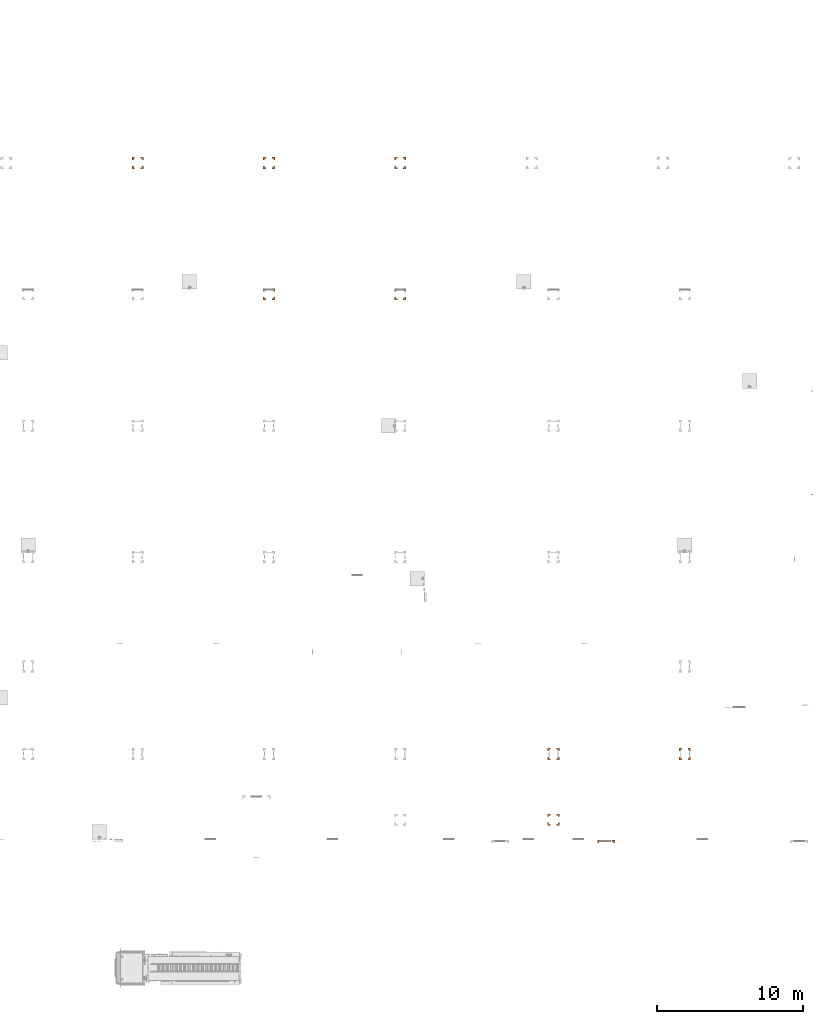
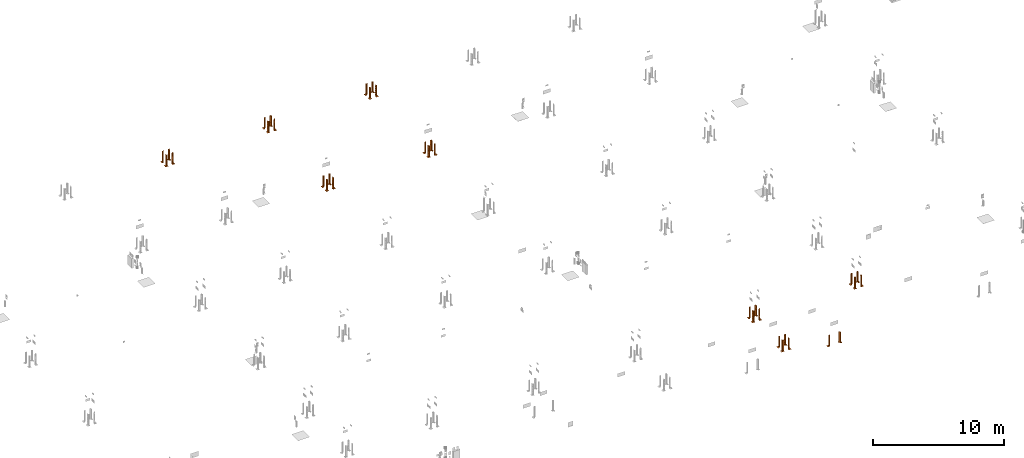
# One storey, part 16 of 119: 34 proxies.
"""IFC2X3 building model written with IfcOpenShell, lengths in metres."""

from ifc_helpers import new_model, entity, si_unit, converted_unit, derived_unit, direction, frame, origin, place, context, subcontext, project, spatial, faceted_brep, source, transform, mapped, material, material_list, type_object, type_shapes, element, save


model = new_model("IFC2X3")

# Units and contexts
model_context = context("Model", 3, precision=1e-05, world=origin(), true_north=direction((6.12303176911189e-17, 1.0)))
body_context = subcontext(model_context, "Body", "Model", "MODEL_VIEW")
ifc_project = project(units=[si_unit("LENGTHUNIT", "METRE"), si_unit("AREAUNIT", "SQUARE_METRE"), si_unit("VOLUMEUNIT", "CUBIC_METRE"), converted_unit("PLANEANGLEUNIT", "DEGREE", entity("IfcRatioMeasure", 0.0174532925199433), si_unit("PLANEANGLEUNIT", "RADIAN"), dimensions=[0, 0, 0, 0, 0, 0, 0]), si_unit("MASSUNIT", "GRAM", prefix="KILO"), derived_unit("MASSDENSITYUNIT", [(si_unit("MASSUNIT", "GRAM", prefix="KILO"), 1), (si_unit("LENGTHUNIT", "METRE"), -3)]), derived_unit("MOMENTOFINERTIAUNIT", [(si_unit("LENGTHUNIT", "METRE"), 4)]), si_unit("TIMEUNIT", "SECOND"), si_unit("FREQUENCYUNIT", "HERTZ"), si_unit("THERMODYNAMICTEMPERATUREUNIT", "DEGREE_CELSIUS"), derived_unit("THERMALTRANSMITTANCEUNIT", [(si_unit("MASSUNIT", "GRAM", prefix="KILO"), 1), (si_unit("THERMODYNAMICTEMPERATUREUNIT", "KELVIN"), -1), (si_unit("TIMEUNIT", "SECOND"), -3)]), derived_unit("VOLUMETRICFLOWRATEUNIT", [(si_unit("LENGTHUNIT", "METRE"), 3), (si_unit("TIMEUNIT", "SECOND"), -1)]), si_unit("ELECTRICCURRENTUNIT", "AMPERE"), si_unit("ELECTRICVOLTAGEUNIT", "VOLT"), si_unit("POWERUNIT", "WATT"), si_unit("FORCEUNIT", "NEWTON", prefix="KILO"), si_unit("ILLUMINANCEUNIT", "LUX"), si_unit("LUMINOUSFLUXUNIT", "LUMEN"), si_unit("LUMINOUSINTENSITYUNIT", "CANDELA"), derived_unit("USERDEFINED", [(si_unit("MASSUNIT", "GRAM", prefix="KILO"), -1), (si_unit("LENGTHUNIT", "METRE"), -2), (si_unit("TIMEUNIT", "SECOND"), 3), (si_unit("LUMINOUSFLUXUNIT", "LUMEN"), 1)]), derived_unit("LINEARVELOCITYUNIT", [(si_unit("LENGTHUNIT", "METRE"), 1), (si_unit("TIMEUNIT", "SECOND"), -1)]), si_unit("PRESSUREUNIT", "PASCAL"), derived_unit("USERDEFINED", [(si_unit("LENGTHUNIT", "METRE"), -2), (si_unit("MASSUNIT", "GRAM", prefix="KILO"), 1), (si_unit("TIMEUNIT", "SECOND"), -2)]), derived_unit("LINEARFORCEUNIT", [(si_unit("MASSUNIT", "GRAM", prefix="KILO"), 1), (si_unit("LENGTHUNIT", "METRE"), 1), (si_unit("TIMEUNIT", "SECOND"), -2), (si_unit("LENGTHUNIT", "METRE"), -1)]), derived_unit("PLANARFORCEUNIT", [(si_unit("MASSUNIT", "GRAM", prefix="KILO"), 1), (si_unit("LENGTHUNIT", "METRE"), 1), (si_unit("TIMEUNIT", "SECOND"), -2), (si_unit("LENGTHUNIT", "METRE"), -2)])], contexts=[model_context])

# Site, building, storey
site_placement = place(None, origin())
site = spatial("IfcSite", under=ifc_project, at=site_placement, Name="Default", CompositionType="ELEMENT")
building_placement = place(site_placement, origin())
building = spatial("IfcBuilding", under=site, at=building_placement, CompositionType="ELEMENT")
storey_placement = place(building_placement, origin())
storey = spatial("IfcBuildingStorey", under=building, at=storey_placement, Name="PAV. 01 - TÉRREO", CompositionType="ELEMENT", Elevation=0.0)

# Proxies
ifc_material_1 = material(Name="Plastico Amarelo")
ifc_material_2 = material(Name="Plastico Preto")
ifc_material_3 = material(Name="O_01_amarelo")
ifc_material_4 = material(Name="O_01_Preto")
ifc_material_list_1 = material_list([ifc_material_1, ifc_material_2, ifc_material_3, ifc_material_4])
ifc_material_list_2 = material_list([ifc_material_3, ifc_material_4, ifc_material_1])
building_element_proxy_type = type_object("IfcBuildingElementProxyType", Name="Indicação de Obstáculos:Indicador - O01 - Amarelo (ambiente interno)", PredefinedType="NOTDEFINED", material=ifc_material_list_2)
shared_shape = source(origin(), body_context, "Body", "Brep", [
    faceted_brep([(0.1, -0.0499999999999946, 0.000999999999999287), (0.0499999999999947, -0.1, 0.000999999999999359), (0.1, -0.1, 0.000999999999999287), (0.1, -0.0499999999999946, 0.0), (0.1, -0.1, 0.0), (0.0499999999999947, -0.1, 0.0)], [[[0, 1, 2]], [[3, 4, 5]], [[0, 2, 4, 3]], [[1, 0, 3, 5]], [[2, 1, 5, 4]]]),
    faceted_brep([(0.100000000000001, 0.0, 0.000999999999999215), (0.0, -0.1, 0.000999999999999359), (0.049999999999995, -0.1, 0.000999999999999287), (0.100000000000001, -0.0499999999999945, 0.000999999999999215), (0.100000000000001, 0.0, 0.0), (0.100000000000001, -0.0499999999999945, 0.0), (0.049999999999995, -0.1, 0.0), (0.0, -0.1, 0.0)], [[[0, 1, 2, 3]], [[4, 5, 6, 7]], [[0, 3, 5, 4]], [[1, 0, 4, 7]], [[3, 2, 6, 5]], [[2, 1, 7, 6]]]),
    faceted_brep([(0.049999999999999, 0.0, 0.000999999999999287), (-0.0500000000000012, -0.0999999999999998, 0.000999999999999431), (0.0, -0.1, 0.000999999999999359), (0.0999999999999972, 0.0, 0.000999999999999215), (0.049999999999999, 0.0, 0.0), (0.0999999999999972, 0.0, 0.0), (0.0, -0.1, 0.0), (-0.0500000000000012, -0.0999999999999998, 0.0)], [[[0, 1, 2, 3]], [[4, 5, 6, 7]], [[1, 0, 4, 7]], [[3, 2, 6, 5]], [[2, 1, 7, 6]], [[0, 3, 5, 4]]]),
    faceted_brep([(-0.0999999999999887, -0.0999999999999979, 0.000999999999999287), (-0.0499999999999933, -0.0999999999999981, 0.000999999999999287), (0.0499999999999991, 0.0, 0.000999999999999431), (0.0, 0.0, 0.000999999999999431), (-0.0999999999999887, -0.0999999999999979, 0.0), (0.0, 0.0, 0.0), (0.049999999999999, 0.0, 0.0), (-0.0499999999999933, -0.0999999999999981, 0.0)], [[[0, 1, 2, 3]], [[4, 5, 6, 7]], [[0, 3, 5, 4]], [[2, 1, 7, 6]], [[3, 2, 6, 5]], [[1, 0, 4, 7]]]),
    faceted_brep([(0.0, 0.0500000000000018, 0.000999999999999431), (-0.0999999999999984, -0.0500000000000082, 0.000999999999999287), (-0.099999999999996, -0.100000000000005, 0.000999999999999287), (0.0, 0.0, 0.000999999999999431), (0.0, 0.0500000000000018, 0.0), (0.0, 0.0, 0.0), (-0.099999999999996, -0.100000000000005, 0.0), (-0.0999999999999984, -0.0500000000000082, 0.0)], [[[0, 1, 2, 3]], [[4, 5, 6, 7]], [[0, 3, 5, 4]], [[1, 0, 4, 7]], [[2, 1, 7, 6]], [[3, 2, 6, 5]]]),
    faceted_brep([(-0.0999999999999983, 0.0499999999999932, 0.000999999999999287), (-0.0499999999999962, 0.1, 0.000999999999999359), (-0.100000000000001, 0.1, 0.000999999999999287), (-0.0999999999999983, 0.0499999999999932, 0.0), (-0.100000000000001, 0.1, 0.0), (-0.0499999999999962, 0.1, 0.0)], [[[0, 1, 2]], [[3, 4, 5]], [[0, 2, 4, 3]], [[1, 0, 3, 5]], [[2, 1, 5, 4]]]),
    faceted_brep([(-0.0999999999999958, 0.0, 0.000999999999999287), (0.0, 0.1, 0.000999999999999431), (-0.0499999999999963, 0.1, 0.000999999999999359), (-0.0999999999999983, 0.0499999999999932, 0.000999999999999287), (-0.0999999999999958, 0.0, 0.0), (-0.0999999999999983, 0.0499999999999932, 0.0), (-0.0499999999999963, 0.1, 0.0), (0.0, 0.1, 0.0)], [[[0, 1, 2, 3]], [[4, 5, 6, 7]], [[0, 3, 5, 4]], [[1, 0, 4, 7]], [[3, 2, 6, 5]], [[2, 1, 7, 6]]]),
    faceted_brep([(0.0, 0.050000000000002, 0.000999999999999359), (0.0, 0.1, 0.000999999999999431), (-0.0999999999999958, 0.0, 0.000999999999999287), (-0.0999999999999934, -0.0500000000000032, 0.000999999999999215), (0.0, 0.0500000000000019, 0.0), (-0.0999999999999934, -0.0500000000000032, 0.0), (-0.0999999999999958, 0.0, 0.0), (0.0, 0.1, 0.0)], [[[0, 1, 2, 3]], [[4, 5, 6, 7]], [[1, 0, 4, 7]], [[2, 1, 7, 6]], [[0, 3, 5, 4]], [[3, 2, 6, 5]]]),
    faceted_brep([(0.00200000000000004, 0.1, 1.0), (0.002, 0.00199999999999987, 0.902000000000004), (0.002, 0.00199999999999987, 0.802000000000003), (0.00200000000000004, 0.1, 0.900000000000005), (0.0, 0.1, 0.900000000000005), (0.0, 0.0, 0.800000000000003), (0.0, 0.0, 0.900000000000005), (0.0, 0.1, 1.0)], [[[0, 1, 2, 3]], [[4, 5, 6, 7]], [[4, 3, 2, 5]], [[1, 6, 5, 2]], [[6, 1, 0, 7]], [[3, 4, 7, 0]]]),
    faceted_brep([(0.00200000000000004, 0.1, 0.800000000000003), (0.002, 0.00199999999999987, 0.702000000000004), (0.002, 0.00199999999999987, 0.602000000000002), (0.00200000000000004, 0.1, 0.700000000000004), (0.0, 0.1, 0.700000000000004), (0.0, 0.0, 0.600000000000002), (0.0, 0.0, 0.700000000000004), (0.0, 0.1, 0.800000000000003)], [[[0, 1, 2, 3]], [[4, 5, 6, 7]], [[4, 3, 2, 5]], [[1, 6, 5, 2]], [[6, 1, 0, 7]], [[3, 4, 7, 0]]]),
    faceted_brep([(0.00200000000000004, 0.1, 0.600000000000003), (0.002, 0.00199999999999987, 0.502000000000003), (0.002, 0.00199999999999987, 0.402000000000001), (0.00200000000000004, 0.1, 0.500000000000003), (0.0, 0.1, 0.500000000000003), (0.0, 0.0, 0.400000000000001), (0.0, 0.0, 0.500000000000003), (0.0, 0.1, 0.600000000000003)], [[[0, 1, 2, 3]], [[4, 5, 6, 7]], [[4, 3, 2, 5]], [[1, 6, 5, 2]], [[6, 1, 0, 7]], [[3, 4, 7, 0]]]),
    faceted_brep([(0.00200000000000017, 0.0999999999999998, 0.400000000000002), (0.00200000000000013, 0.0019999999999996, 0.302000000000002), (0.00200000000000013, 0.0019999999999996, 0.202), (0.00200000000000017, 0.0999999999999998, 0.300000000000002), (0.0, 0.0999999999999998, 0.300000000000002), (0.0, 0.0, 0.2), (0.0, 0.0, 0.300000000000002), (0.0, 0.0999999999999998, 0.400000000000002)], [[[0, 1, 2, 3]], [[4, 5, 6, 7]], [[4, 3, 2, 5]], [[1, 6, 5, 2]], [[6, 1, 0, 7]], [[3, 4, 7, 0]]]),
    faceted_brep([(0.000500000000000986, 0.1, 0.900000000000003), (0.000500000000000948, 0.000499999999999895, 0.800500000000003), (0.000500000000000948, 0.00049999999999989, 0.700500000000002), (0.000500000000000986, 0.1, 0.800000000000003), (0.0, 0.1, 0.800000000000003), (0.0, 0.0, 0.700000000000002), (0.0, 0.0, 0.800000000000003), (0.0, 0.1, 0.900000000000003)], [[[0, 1, 2, 3]], [[4, 5, 6, 7]], [[4, 3, 2, 5]], [[1, 6, 5, 2]], [[6, 1, 0, 7]], [[3, 4, 7, 0]]]),
    faceted_brep([(0.000500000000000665, 0.1, 0.700000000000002), (0.000500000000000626, 0.000499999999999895, 0.600500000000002), (0.000500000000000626, 0.00049999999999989, 0.500500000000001), (0.000500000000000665, 0.1, 0.600000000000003), (0.0, 0.1, 0.600000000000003), (0.0, 0.0, 0.500000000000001), (0.0, 0.0, 0.600000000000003), (0.0, 0.1, 0.700000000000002)], [[[0, 1, 2, 3]], [[4, 5, 6, 7]], [[4, 3, 2, 5]], [[1, 6, 5, 2]], [[6, 1, 0, 7]], [[3, 4, 7, 0]]]),
    faceted_brep([(0.000500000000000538, 0.0999999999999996, 0.500000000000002), (0.000500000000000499, 0.000499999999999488, 0.400500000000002), (0.000500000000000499, 0.000499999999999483, 0.3005), (0.000500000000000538, 0.0999999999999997, 0.400000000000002), (0.0, 0.0999999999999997, 0.400000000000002), (0.0, 0.0, 0.3), (0.0, 0.0, 0.400000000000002), (0.0, 0.0999999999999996, 0.500000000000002)], [[[0, 1, 2, 3]], [[4, 5, 6, 7]], [[4, 3, 2, 5]], [[1, 6, 5, 2]], [[6, 1, 0, 7]], [[3, 4, 7, 0]]]),
    faceted_brep([(0.00499999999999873, 0.00499999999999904, 1.0), (0.00499999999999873, 0.00499999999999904, 0.904999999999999), (0.00499999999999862, 0.0999999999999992, 1.0), (0.0, 0.0, 0.899999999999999), (0.0, 0.0, 1.0), (0.0, 0.0999999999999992, 1.0)], [[[0, 1, 2]], [[3, 4, 5]], [[4, 0, 2, 5]], [[5, 2, 1, 3]], [[0, 4, 3, 1]]]),
    faceted_brep([(0.00499999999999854, 0.00499999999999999, 1.0), (0.0999999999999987, 0.00499999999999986, 1.0), (0.00499999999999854, 0.00499999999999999, 0.904999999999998), (0.0, 0.0, 0.899999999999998), (0.0999999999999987, 0.0, 1.0), (0.0, 0.0, 1.0)], [[[0, 1, 2]], [[3, 4, 5]], [[5, 4, 1, 0]], [[4, 3, 2, 1]], [[0, 2, 3, 5]]]),
    faceted_brep([(0.0999999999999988, 0.000499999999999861, 0.900000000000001), (0.0999999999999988, 0.000499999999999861, 0.800000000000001), (0.000499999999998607, 0.000499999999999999, 0.7005), (0.000499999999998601, 0.000499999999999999, 0.800500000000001), (0.0999999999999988, 0.0, 0.800000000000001), (0.0999999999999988, 0.0, 0.900000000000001), (0.0, 0.0, 0.800000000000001), (0.0, 0.0, 0.7)], [[[0, 1, 2, 3]], [[4, 5, 6, 7]], [[4, 7, 2, 1]], [[3, 2, 7, 6]], [[6, 5, 0, 3]], [[1, 0, 5, 4]]]),
    faceted_brep([(0.0999999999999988, 0.000499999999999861, 0.700000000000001), (0.0999999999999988, 0.000499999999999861, 0.600000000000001), (0.000499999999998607, 0.000499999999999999, 0.5005), (0.000499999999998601, 0.000499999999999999, 0.600500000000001), (0.0999999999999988, 0.0, 0.600000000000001), (0.0999999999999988, 0.0, 0.700000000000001), (0.0, 0.0, 0.600000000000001), (0.0, 0.0, 0.5)], [[[0, 1, 2, 3]], [[4, 5, 6, 7]], [[4, 7, 2, 1]], [[3, 2, 7, 6]], [[6, 5, 0, 3]], [[1, 0, 5, 4]]]),
    faceted_brep([(0.0999999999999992, 0.000499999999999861, 0.500000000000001), (0.0999999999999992, 0.000499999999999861, 0.400000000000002), (0.000499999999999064, 0.000499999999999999, 0.3005), (0.000499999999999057, 0.000499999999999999, 0.400500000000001), (0.0999999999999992, 0.0, 0.400000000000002), (0.0999999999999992, 0.0, 0.500000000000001), (0.0, 0.0, 0.400000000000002), (0.0, 0.0, 0.3)], [[[0, 1, 2, 3]], [[4, 5, 6, 7]], [[4, 7, 2, 1]], [[3, 2, 7, 6]], [[6, 5, 0, 3]], [[1, 0, 5, 4]]]),
    faceted_brep([(0.0999999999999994, 0.00199999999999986, 1.0), (0.0999999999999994, 0.00199999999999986, 0.900000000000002), (0.00199999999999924, 0.002, 0.802), (0.00199999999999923, 0.002, 0.902000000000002), (0.0999999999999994, 0.0, 0.900000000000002), (0.0999999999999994, 0.0, 1.0), (0.0, 0.0, 0.900000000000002), (0.0, 0.0, 0.8)], [[[0, 1, 2, 3]], [[4, 5, 6, 7]], [[4, 7, 2, 1]], [[3, 2, 7, 6]], [[6, 5, 0, 3]], [[1, 0, 5, 4]]]),
    faceted_brep([(0.0999999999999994, 0.00199999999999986, 0.800000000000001), (0.0999999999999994, 0.00199999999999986, 0.700000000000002), (0.00199999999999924, 0.002, 0.602), (0.00199999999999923, 0.002, 0.702000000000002), (0.0999999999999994, 0.0, 0.700000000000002), (0.0999999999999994, 0.0, 0.800000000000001), (0.0, 0.0, 0.700000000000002), (0.0, 0.0, 0.6)], [[[0, 1, 2, 3]], [[4, 5, 6, 7]], [[4, 7, 2, 1]], [[3, 2, 7, 6]], [[6, 5, 0, 3]], [[1, 0, 5, 4]]]),
    faceted_brep([(0.0999999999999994, 0.00199999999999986, 0.600000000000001), (0.0999999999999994, 0.00199999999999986, 0.500000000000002), (0.00199999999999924, 0.002, 0.402), (0.00199999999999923, 0.002, 0.502000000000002), (0.0999999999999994, 0.0, 0.500000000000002), (0.0999999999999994, 0.0, 0.600000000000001), (0.0, 0.0, 0.500000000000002), (0.0, 0.0, 0.4)], [[[0, 1, 2, 3]], [[4, 5, 6, 7]], [[4, 7, 2, 1]], [[3, 2, 7, 6]], [[6, 5, 0, 3]], [[1, 0, 5, 4]]]),
    faceted_brep([(0.0999999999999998, 0.00199999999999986, 0.400000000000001), (0.0999999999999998, 0.00199999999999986, 0.300000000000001), (0.00199999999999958, 0.002, 0.202), (0.00199999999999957, 0.002, 0.302000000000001), (0.0999999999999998, 0.0, 0.300000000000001), (0.0999999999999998, 0.0, 0.400000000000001), (0.0, 0.0, 0.300000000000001), (0.0, 0.0, 0.2)], [[[0, 1, 2, 3]], [[4, 5, 6, 7]], [[4, 7, 2, 1]], [[3, 2, 7, 6]], [[6, 5, 0, 3]], [[1, 0, 5, 4]]]),
    faceted_brep([(0.000500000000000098, 0.1, 0.300000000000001), (0.000500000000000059, 0.000499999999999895, 0.200500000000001), (0.000500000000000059, 0.00049999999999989, 0.1005), (0.000500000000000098, 0.1, 0.200000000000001), (0.0, 0.1, 0.200000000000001), (0.0, 0.0, 0.0999999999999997), (0.0, 0.0, 0.200000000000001), (0.0, 0.1, 0.300000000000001)], [[[0, 1, 2, 3]], [[4, 5, 6, 7]], [[4, 3, 2, 5]], [[1, 6, 5, 2]], [[6, 1, 0, 7]], [[3, 4, 7, 0]]]),
    faceted_brep([(0.00200000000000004, 0.1, 0.200000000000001), (0.002, 0.00199999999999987, 0.102000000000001), (0.002, 0.00199999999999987, 0.00199999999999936), (0.00200000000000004, 0.1, 0.100000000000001), (0.0, 0.1, 0.100000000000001), (0.0, 0.0, 0.0), (0.0, 0.0, 0.100000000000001), (0.0, 0.1, 0.200000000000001)], [[[0, 1, 2, 3]], [[4, 5, 6, 7]], [[4, 3, 2, 5]], [[1, 6, 5, 2]], [[6, 1, 0, 7]], [[3, 4, 7, 0]]]),
    faceted_brep([(0.000500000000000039, 0.1, 0.100000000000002), (0.0005, 0.000499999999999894, 0.000499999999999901), (0.0005, 0.000499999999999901, 0.0), (0.000500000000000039, 0.1, 0.0), (0.0, 0.0, 0.0), (0.0, 0.1, 0.100000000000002), (0.0, 0.1, 0.0)], [[[0, 1, 2, 3]], [[4, 5, 6]], [[3, 6, 5, 0]], [[6, 3, 2, 4]], [[4, 1, 0, 5]], [[1, 4, 2]]]),
    faceted_brep([(0.0999999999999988, 0.000499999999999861, 0.300000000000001), (0.0999999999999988, 0.000499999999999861, 0.200000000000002), (0.000499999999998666, 0.000499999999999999, 0.1005), (0.00049999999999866, 0.000499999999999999, 0.200500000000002), (0.0999999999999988, 0.0, 0.200000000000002), (0.0999999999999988, 0.0, 0.300000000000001), (0.0, 0.0, 0.200000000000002), (0.0, 0.0, 0.1)], [[[0, 1, 2, 3]], [[4, 5, 6, 7]], [[4, 7, 2, 1]], [[3, 2, 7, 6]], [[6, 5, 0, 3]], [[1, 0, 5, 4]]]),
    faceted_brep([(0.0999999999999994, 0.00199999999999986, 0.200000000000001), (0.0999999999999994, 0.00199999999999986, 0.100000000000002), (0.00199999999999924, 0.002, 0.0019999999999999), (0.00199999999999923, 0.002, 0.102000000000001), (0.0999999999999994, 0.0, 0.100000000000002), (0.0999999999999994, 0.0, 0.200000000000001), (0.0, 0.0, 0.100000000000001), (0.0, 0.0, 0.0)], [[[0, 1, 2, 3]], [[4, 5, 6, 7]], [[4, 7, 2, 1]], [[3, 2, 7, 6]], [[6, 5, 0, 3]], [[1, 0, 5, 4]]]),
    faceted_brep([(0.1, 0.000499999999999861, 0.100000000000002), (0.1, 0.000499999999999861, 0.0), (0.000499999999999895, 0.000499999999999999, 0.0), (0.000499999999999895, 0.000499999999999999, 0.000499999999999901), (0.0, 0.0, 0.0), (0.1, 0.0, 0.0), (0.1, 0.0, 0.100000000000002)], [[[0, 1, 2, 3]], [[4, 5, 6]], [[1, 0, 6, 5]], [[5, 4, 2, 1]], [[4, 6, 0, 3]], [[3, 2, 4]]]),
])
type_shapes(building_element_proxy_type, [shared_shape])
proxy_1_placement = place(storey_placement, frame((37.9738354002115, 31.6286451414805, 0.0), z_axis=(0.0, 0.0, 1.0), x_axis=(0.0, 1.0, 0.0)))
element("IfcBuildingElementProxy", 1, at=proxy_1_placement, inside=storey, type_object=building_element_proxy_type, material=ifc_material_list_1, Name="Indicação de Obstáculos:Indicador - O01 - Amarelo (ambiente interno)", ObjectType="Indicação de Obstáculos:Indicador - O01 - Amarelo (ambiente interno)", context=body_context, shape_type="MappedRepresentation", body=[
    mapped(shared_shape, transform((0.0, 0.0, 0.0), scale=1.0)),
])
ifc_material_list_3 = material_list([ifc_material_1, ifc_material_2, ifc_material_3, ifc_material_4])
proxy_2_placement = place(storey_placement, frame((37.3738361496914, 31.6286451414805, 0.0)))
element("IfcBuildingElementProxy", 2, at=proxy_2_placement, inside=storey, type_object=building_element_proxy_type, material=ifc_material_list_3, Name="Indicação de Obstáculos:Indicador - O01 - Amarelo (ambiente interno)", ObjectType="Indicação de Obstáculos:Indicador - O01 - Amarelo (ambiente interno)", context=body_context, shape_type="MappedRepresentation", body=[
    mapped(shared_shape, transform((0.0, 0.0, 0.0), scale=1.0)),
])
ifc_material_list_4 = material_list([ifc_material_1, ifc_material_2, ifc_material_3, ifc_material_4])
proxy_3_placement = place(storey_placement, frame((37.9738354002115, 32.2286443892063, 0.0), z_axis=(0.0, 0.0, 1.0), x_axis=(-1.0, 0.0, 0.0)))
element("IfcBuildingElementProxy", 3, at=proxy_3_placement, inside=storey, type_object=building_element_proxy_type, material=ifc_material_list_4, Name="Indicação de Obstáculos:Indicador - O01 - Amarelo (ambiente interno)", ObjectType="Indicação de Obstáculos:Indicador - O01 - Amarelo (ambiente interno)", context=body_context, shape_type="MappedRepresentation", body=[
    mapped(shared_shape, transform((0.0, 0.0, 0.0), scale=1.0)),
])
ifc_material_list_5 = material_list([ifc_material_1, ifc_material_2, ifc_material_3, ifc_material_4])
proxy_4_placement = place(storey_placement, frame((37.3738361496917, 32.2286443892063, 0.0), z_axis=(0.0, 0.0, 1.0), x_axis=(0.0, -1.0, 0.0)))
element("IfcBuildingElementProxy", 4, at=proxy_4_placement, inside=storey, type_object=building_element_proxy_type, material=ifc_material_list_5, Name="Indicação de Obstáculos:Indicador - O01 - Amarelo (ambiente interno)", ObjectType="Indicação de Obstáculos:Indicador - O01 - Amarelo (ambiente interno)", context=body_context, shape_type="MappedRepresentation", body=[
    mapped(shared_shape, transform((0.0, 0.0, 0.0), scale=1.0)),
])
ifc_material_list_6 = material_list([ifc_material_1, ifc_material_2, ifc_material_3, ifc_material_4])
proxy_5_placement = place(storey_placement, frame((46.9738241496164, 31.6286451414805, 0.0), z_axis=(0.0, 0.0, 1.0), x_axis=(0.0, 1.0, 0.0)))
element("IfcBuildingElementProxy", 5, at=proxy_5_placement, inside=storey, type_object=building_element_proxy_type, material=ifc_material_list_6, Name="Indicação de Obstáculos:Indicador - O01 - Amarelo (ambiente interno)", ObjectType="Indicação de Obstáculos:Indicador - O01 - Amarelo (ambiente interno)", context=body_context, shape_type="MappedRepresentation", body=[
    mapped(shared_shape, transform((0.0, 0.0, 0.0), scale=1.0)),
])
ifc_material_list_7 = material_list([ifc_material_1, ifc_material_2, ifc_material_3, ifc_material_4])
proxy_6_placement = place(storey_placement, frame((46.3738248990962, 31.6286451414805, 0.0)))
element("IfcBuildingElementProxy", 6, at=proxy_6_placement, inside=storey, type_object=building_element_proxy_type, material=ifc_material_list_7, Name="Indicação de Obstáculos:Indicador - O01 - Amarelo (ambiente interno)", ObjectType="Indicação de Obstáculos:Indicador - O01 - Amarelo (ambiente interno)", context=body_context, shape_type="MappedRepresentation", body=[
    mapped(shared_shape, transform((0.0, 0.0, 0.0), scale=1.0)),
])
ifc_material_list_8 = material_list([ifc_material_1, ifc_material_2, ifc_material_3, ifc_material_4])
proxy_7_placement = place(storey_placement, frame((46.9738241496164, 32.2286443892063, 0.0), z_axis=(0.0, 0.0, 1.0), x_axis=(-1.0, 0.0, 0.0)))
element("IfcBuildingElementProxy", 7, at=proxy_7_placement, inside=storey, type_object=building_element_proxy_type, material=ifc_material_list_8, Name="Indicação de Obstáculos:Indicador - O01 - Amarelo (ambiente interno)", ObjectType="Indicação de Obstáculos:Indicador - O01 - Amarelo (ambiente interno)", context=body_context, shape_type="MappedRepresentation", body=[
    mapped(shared_shape, transform((0.0, 0.0, 0.0), scale=1.0)),
])
ifc_material_list_9 = material_list([ifc_material_1, ifc_material_2, ifc_material_3, ifc_material_4])
proxy_8_placement = place(storey_placement, frame((46.3738248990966, 32.2286443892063, 0.0), z_axis=(0.0, 0.0, 1.0), x_axis=(0.0, -1.0, 0.0)))
element("IfcBuildingElementProxy", 8, at=proxy_8_placement, inside=storey, type_object=building_element_proxy_type, material=ifc_material_list_9, Name="Indicação de Obstáculos:Indicador - O01 - Amarelo (ambiente interno)", ObjectType="Indicação de Obstáculos:Indicador - O01 - Amarelo (ambiente interno)", context=body_context, shape_type="MappedRepresentation", body=[
    mapped(shared_shape, transform((0.0, 0.0, 0.0), scale=1.0)),
])
ifc_material_list_10 = material_list([ifc_material_1, ifc_material_2, ifc_material_3, ifc_material_4])
proxy_9_placement = place(storey_placement, frame((28.9738466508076, 40.6286338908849, 0.0), z_axis=(0.0, 0.0, 1.0), x_axis=(0.0, 1.0, 0.0)))
element("IfcBuildingElementProxy", 9, at=proxy_9_placement, inside=storey, type_object=building_element_proxy_type, material=ifc_material_list_10, Name="Indicação de Obstáculos:Indicador - O01 - Amarelo (ambiente interno)", ObjectType="Indicação de Obstáculos:Indicador - O01 - Amarelo (ambiente interno)", context=body_context, shape_type="MappedRepresentation", body=[
    mapped(shared_shape, transform((0.0, 0.0, 0.0), scale=1.0)),
])
ifc_material_list_11 = material_list([ifc_material_1, ifc_material_2, ifc_material_3, ifc_material_4])
proxy_10_placement = place(storey_placement, frame((28.3738474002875, 40.6286338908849, 0.0)))
element("IfcBuildingElementProxy", 10, at=proxy_10_placement, inside=storey, type_object=building_element_proxy_type, material=ifc_material_list_11, Name="Indicação de Obstáculos:Indicador - O01 - Amarelo (ambiente interno)", ObjectType="Indicação de Obstáculos:Indicador - O01 - Amarelo (ambiente interno)", context=body_context, shape_type="MappedRepresentation", body=[
    mapped(shared_shape, transform((0.0, 0.0, 0.0), scale=1.0)),
])
ifc_material_list_12 = material_list([ifc_material_1, ifc_material_2, ifc_material_3, ifc_material_4])
proxy_11_placement = place(storey_placement, frame((28.9738466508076, 41.2286331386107, 0.0), z_axis=(0.0, 0.0, 1.0), x_axis=(-1.0, 0.0, 0.0)))
element("IfcBuildingElementProxy", 11, at=proxy_11_placement, inside=storey, type_object=building_element_proxy_type, material=ifc_material_list_12, Name="Indicação de Obstáculos:Indicador - O01 - Amarelo (ambiente interno)", ObjectType="Indicação de Obstáculos:Indicador - O01 - Amarelo (ambiente interno)", context=body_context, shape_type="MappedRepresentation", body=[
    mapped(shared_shape, transform((0.0, 0.0, 0.0), scale=1.0)),
])
ifc_material_list_13 = material_list([ifc_material_1, ifc_material_2, ifc_material_3, ifc_material_4])
proxy_12_placement = place(storey_placement, frame((28.3738474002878, 41.2286331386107, 0.0), z_axis=(0.0, 0.0, 1.0), x_axis=(0.0, -1.0, 0.0)))
element("IfcBuildingElementProxy", 12, at=proxy_12_placement, inside=storey, type_object=building_element_proxy_type, material=ifc_material_list_13, Name="Indicação de Obstáculos:Indicador - O01 - Amarelo (ambiente interno)", ObjectType="Indicação de Obstáculos:Indicador - O01 - Amarelo (ambiente interno)", context=body_context, shape_type="MappedRepresentation", body=[
    mapped(shared_shape, transform((0.0, 0.0, 0.0), scale=1.0)),
])
ifc_material_list_14 = material_list([ifc_material_1, ifc_material_2, ifc_material_3, ifc_material_4])
proxy_13_placement = place(storey_placement, frame((37.9738354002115, 40.6286338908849, 0.0), z_axis=(0.0, 0.0, 1.0), x_axis=(0.0, 1.0, 0.0)))
element("IfcBuildingElementProxy", 13, at=proxy_13_placement, inside=storey, type_object=building_element_proxy_type, material=ifc_material_list_14, Name="Indicação de Obstáculos:Indicador - O01 - Amarelo (ambiente interno)", ObjectType="Indicação de Obstáculos:Indicador - O01 - Amarelo (ambiente interno)", context=body_context, shape_type="MappedRepresentation", body=[
    mapped(shared_shape, transform((0.0, 0.0, 0.0), scale=1.0)),
])
ifc_material_list_15 = material_list([ifc_material_1, ifc_material_2, ifc_material_3, ifc_material_4])
proxy_14_placement = place(storey_placement, frame((37.3738361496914, 40.6286338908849, 0.0)))
element("IfcBuildingElementProxy", 14, at=proxy_14_placement, inside=storey, type_object=building_element_proxy_type, material=ifc_material_list_15, Name="Indicação de Obstáculos:Indicador - O01 - Amarelo (ambiente interno)", ObjectType="Indicação de Obstáculos:Indicador - O01 - Amarelo (ambiente interno)", context=body_context, shape_type="MappedRepresentation", body=[
    mapped(shared_shape, transform((0.0, 0.0, 0.0), scale=1.0)),
])
ifc_material_list_16 = material_list([ifc_material_1, ifc_material_2, ifc_material_3, ifc_material_4])
proxy_15_placement = place(storey_placement, frame((37.9738354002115, 41.2286331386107, 0.0), z_axis=(0.0, 0.0, 1.0), x_axis=(-1.0, 0.0, 0.0)))
element("IfcBuildingElementProxy", 15, at=proxy_15_placement, inside=storey, type_object=building_element_proxy_type, material=ifc_material_list_16, Name="Indicação de Obstáculos:Indicador - O01 - Amarelo (ambiente interno)", ObjectType="Indicação de Obstáculos:Indicador - O01 - Amarelo (ambiente interno)", context=body_context, shape_type="MappedRepresentation", body=[
    mapped(shared_shape, transform((0.0, 0.0, 0.0), scale=1.0)),
])
ifc_material_list_17 = material_list([ifc_material_1, ifc_material_2, ifc_material_3, ifc_material_4])
proxy_16_placement = place(storey_placement, frame((37.3738361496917, 41.2286331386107, 0.0), z_axis=(0.0, 0.0, 1.0), x_axis=(0.0, -1.0, 0.0)))
element("IfcBuildingElementProxy", 16, at=proxy_16_placement, inside=storey, type_object=building_element_proxy_type, material=ifc_material_list_17, Name="Indicação de Obstáculos:Indicador - O01 - Amarelo (ambiente interno)", ObjectType="Indicação de Obstáculos:Indicador - O01 - Amarelo (ambiente interno)", context=body_context, shape_type="MappedRepresentation", body=[
    mapped(shared_shape, transform((0.0, 0.0, 0.0), scale=1.0)),
])
ifc_material_list_18 = material_list([ifc_material_1, ifc_material_2, ifc_material_3, ifc_material_4])
proxy_17_placement = place(storey_placement, frame((46.9738241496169, 40.6286338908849, 0.0), z_axis=(0.0, 0.0, 1.0), x_axis=(0.0, 1.0, 0.0)))
element("IfcBuildingElementProxy", 17, at=proxy_17_placement, inside=storey, type_object=building_element_proxy_type, material=ifc_material_list_18, Name="Indicação de Obstáculos:Indicador - O01 - Amarelo (ambiente interno)", ObjectType="Indicação de Obstáculos:Indicador - O01 - Amarelo (ambiente interno)", context=body_context, shape_type="MappedRepresentation", body=[
    mapped(shared_shape, transform((0.0, 0.0, 0.0), scale=1.0)),
])
ifc_material_list_19 = material_list([ifc_material_1, ifc_material_2, ifc_material_3, ifc_material_4])
proxy_18_placement = place(storey_placement, frame((46.3738248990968, 40.6286338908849, 0.0)))
element("IfcBuildingElementProxy", 18, at=proxy_18_placement, inside=storey, type_object=building_element_proxy_type, material=ifc_material_list_19, Name="Indicação de Obstáculos:Indicador - O01 - Amarelo (ambiente interno)", ObjectType="Indicação de Obstáculos:Indicador - O01 - Amarelo (ambiente interno)", context=body_context, shape_type="MappedRepresentation", body=[
    mapped(shared_shape, transform((0.0, 0.0, 0.0), scale=1.0)),
])
ifc_material_list_20 = material_list([ifc_material_1, ifc_material_2, ifc_material_3, ifc_material_4])
proxy_19_placement = place(storey_placement, frame((46.9738241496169, 41.2286331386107, 0.0), z_axis=(0.0, 0.0, 1.0), x_axis=(-1.0, 0.0, 0.0)))
element("IfcBuildingElementProxy", 19, at=proxy_19_placement, inside=storey, type_object=building_element_proxy_type, material=ifc_material_list_20, Name="Indicação de Obstáculos:Indicador - O01 - Amarelo (ambiente interno)", ObjectType="Indicação de Obstáculos:Indicador - O01 - Amarelo (ambiente interno)", context=body_context, shape_type="MappedRepresentation", body=[
    mapped(shared_shape, transform((0.0, 0.0, 0.0), scale=1.0)),
])
ifc_material_list_21 = material_list([ifc_material_1, ifc_material_2, ifc_material_3, ifc_material_4])
proxy_20_placement = place(storey_placement, frame((46.3738248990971, 41.2286331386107, 0.0), z_axis=(0.0, 0.0, 1.0), x_axis=(0.0, -1.0, 0.0)))
element("IfcBuildingElementProxy", 20, at=proxy_20_placement, inside=storey, type_object=building_element_proxy_type, material=ifc_material_list_21, Name="Indicação de Obstáculos:Indicador - O01 - Amarelo (ambiente interno)", ObjectType="Indicação de Obstáculos:Indicador - O01 - Amarelo (ambiente interno)", context=body_context, shape_type="MappedRepresentation", body=[
    mapped(shared_shape, transform((0.0, 0.0, 0.0), scale=1.0)),
])
ifc_material_list_22 = material_list([ifc_material_1, ifc_material_2, ifc_material_3, ifc_material_4])
proxy_21_placement = place(storey_placement, frame((66.4737997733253, 0.128684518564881, 0.0), z_axis=(0.0, 0.0, 1.0), x_axis=(0.0, 1.0, 0.0)))
element("IfcBuildingElementProxy", 21, at=proxy_21_placement, inside=storey, type_object=building_element_proxy_type, material=ifc_material_list_22, Name="Indicação de Obstáculos:Indicador - O01 - Amarelo (ambiente interno)", ObjectType="Indicação de Obstáculos:Indicador - O01 - Amarelo (ambiente interno)", context=body_context, shape_type="MappedRepresentation", body=[
    mapped(shared_shape, transform((0.0, 0.0, 0.0), scale=1.0)),
])
ifc_material_list_23 = material_list([ifc_material_1, ifc_material_2, ifc_material_3, ifc_material_4])
proxy_22_placement = place(storey_placement, frame((65.8738005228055, 0.128684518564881, 0.0)))
element("IfcBuildingElementProxy", 22, at=proxy_22_placement, inside=storey, type_object=building_element_proxy_type, material=ifc_material_list_23, Name="Indicação de Obstáculos:Indicador - O01 - Amarelo (ambiente interno)", ObjectType="Indicação de Obstáculos:Indicador - O01 - Amarelo (ambiente interno)", context=body_context, shape_type="MappedRepresentation", body=[
    mapped(shared_shape, transform((0.0, 0.0, 0.0), scale=1.0)),
])
ifc_material_list_24 = material_list([ifc_material_1, ifc_material_2, ifc_material_3, ifc_material_4])
proxy_23_placement = place(storey_placement, frame((66.473799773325, 0.728683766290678, 0.0), z_axis=(0.0, 0.0, 1.0), x_axis=(-1.0, 0.0, 0.0)))
element("IfcBuildingElementProxy", 23, at=proxy_23_placement, inside=storey, type_object=building_element_proxy_type, material=ifc_material_list_24, Name="Indicação de Obstáculos:Indicador - O01 - Amarelo (ambiente interno)", ObjectType="Indicação de Obstáculos:Indicador - O01 - Amarelo (ambiente interno)", context=body_context, shape_type="MappedRepresentation", body=[
    mapped(shared_shape, transform((0.0, 0.0, 0.0), scale=1.0)),
])
ifc_material_list_25 = material_list([ifc_material_1, ifc_material_2, ifc_material_3, ifc_material_4])
proxy_24_placement = place(storey_placement, frame((65.8738005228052, 0.728683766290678, 0.0), z_axis=(0.0, 0.0, 1.0), x_axis=(0.0, -1.0, 0.0)))
element("IfcBuildingElementProxy", 24, at=proxy_24_placement, inside=storey, type_object=building_element_proxy_type, material=ifc_material_list_25, Name="Indicação de Obstáculos:Indicador - O01 - Amarelo (ambiente interno)", ObjectType="Indicação de Obstáculos:Indicador - O01 - Amarelo (ambiente interno)", context=body_context, shape_type="MappedRepresentation", body=[
    mapped(shared_shape, transform((0.0, 0.0, 0.0), scale=1.0)),
])
ifc_material_list_26 = material_list([ifc_material_1, ifc_material_2, ifc_material_3, ifc_material_4])
proxy_25_placement = place(storey_placement, frame((57.4738110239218, 0.12868451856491, 0.0), z_axis=(0.0, 0.0, 1.0), x_axis=(0.0, 1.0, 0.0)))
element("IfcBuildingElementProxy", 25, at=proxy_25_placement, inside=storey, type_object=building_element_proxy_type, material=ifc_material_list_26, Name="Indicação de Obstáculos:Indicador - O01 - Amarelo (ambiente interno)", ObjectType="Indicação de Obstáculos:Indicador - O01 - Amarelo (ambiente interno)", context=body_context, shape_type="MappedRepresentation", body=[
    mapped(shared_shape, transform((0.0, 0.0, 0.0), scale=1.0)),
])
ifc_material_list_27 = material_list([ifc_material_1, ifc_material_2, ifc_material_3, ifc_material_4])
proxy_26_placement = place(storey_placement, frame((56.873811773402, 0.12868451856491, 0.0)))
element("IfcBuildingElementProxy", 26, at=proxy_26_placement, inside=storey, type_object=building_element_proxy_type, material=ifc_material_list_27, Name="Indicação de Obstáculos:Indicador - O01 - Amarelo (ambiente interno)", ObjectType="Indicação de Obstáculos:Indicador - O01 - Amarelo (ambiente interno)", context=body_context, shape_type="MappedRepresentation", body=[
    mapped(shared_shape, transform((0.0, 0.0, 0.0), scale=1.0)),
])
ifc_material_list_28 = material_list([ifc_material_1, ifc_material_2, ifc_material_3, ifc_material_4])
proxy_27_placement = place(storey_placement, frame((57.4738110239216, 0.728683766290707, 0.0), z_axis=(0.0, 0.0, 1.0), x_axis=(-1.0, 0.0, 0.0)))
element("IfcBuildingElementProxy", 27, at=proxy_27_placement, inside=storey, type_object=building_element_proxy_type, material=ifc_material_list_28, Name="Indicação de Obstáculos:Indicador - O01 - Amarelo (ambiente interno)", ObjectType="Indicação de Obstáculos:Indicador - O01 - Amarelo (ambiente interno)", context=body_context, shape_type="MappedRepresentation", body=[
    mapped(shared_shape, transform((0.0, 0.0, 0.0), scale=1.0)),
])
ifc_material_list_29 = material_list([ifc_material_1, ifc_material_2, ifc_material_3, ifc_material_4])
proxy_28_placement = place(storey_placement, frame((56.8738117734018, 0.728683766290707, 0.0), z_axis=(0.0, 0.0, 1.0), x_axis=(0.0, -1.0, 0.0)))
element("IfcBuildingElementProxy", 28, at=proxy_28_placement, inside=storey, type_object=building_element_proxy_type, material=ifc_material_list_29, Name="Indicação de Obstáculos:Indicador - O01 - Amarelo (ambiente interno)", ObjectType="Indicação de Obstáculos:Indicador - O01 - Amarelo (ambiente interno)", context=body_context, shape_type="MappedRepresentation", body=[
    mapped(shared_shape, transform((0.0, 0.0, 0.0), scale=1.0)),
])
ifc_material_list_30 = material_list([ifc_material_1, ifc_material_2, ifc_material_3, ifc_material_4])
proxy_29_placement = place(storey_placement, frame((57.4738110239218, -4.37130985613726, 0.0), z_axis=(0.0, 0.0, 1.0), x_axis=(0.0, 1.0, 0.0)))
element("IfcBuildingElementProxy", 29, at=proxy_29_placement, inside=storey, type_object=building_element_proxy_type, material=ifc_material_list_30, Name="Indicação de Obstáculos:Indicador - O01 - Amarelo (ambiente interno)", ObjectType="Indicação de Obstáculos:Indicador - O01 - Amarelo (ambiente interno)", context=body_context, shape_type="MappedRepresentation", body=[
    mapped(shared_shape, transform((0.0, 0.0, 0.0), scale=1.0)),
])
ifc_material_list_31 = material_list([ifc_material_1, ifc_material_2, ifc_material_3, ifc_material_4])
proxy_30_placement = place(storey_placement, frame((56.873811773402, -4.37130985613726, 0.0)))
element("IfcBuildingElementProxy", 30, at=proxy_30_placement, inside=storey, type_object=building_element_proxy_type, material=ifc_material_list_31, Name="Indicação de Obstáculos:Indicador - O01 - Amarelo (ambiente interno)", ObjectType="Indicação de Obstáculos:Indicador - O01 - Amarelo (ambiente interno)", context=body_context, shape_type="MappedRepresentation", body=[
    mapped(shared_shape, transform((0.0, 0.0, 0.0), scale=1.0)),
])
ifc_material_list_32 = material_list([ifc_material_1, ifc_material_2, ifc_material_3, ifc_material_4])
proxy_31_placement = place(storey_placement, frame((57.4738110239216, -3.77131060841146, 0.0), z_axis=(0.0, 0.0, 1.0), x_axis=(-1.0, 0.0, 0.0)))
element("IfcBuildingElementProxy", 31, at=proxy_31_placement, inside=storey, type_object=building_element_proxy_type, material=ifc_material_list_32, Name="Indicação de Obstáculos:Indicador - O01 - Amarelo (ambiente interno)", ObjectType="Indicação de Obstáculos:Indicador - O01 - Amarelo (ambiente interno)", context=body_context, shape_type="MappedRepresentation", body=[
    mapped(shared_shape, transform((0.0, 0.0, 0.0), scale=1.0)),
])
ifc_material_list_33 = material_list([ifc_material_1, ifc_material_2, ifc_material_3, ifc_material_4])
proxy_32_placement = place(storey_placement, frame((56.8738117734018, -3.77131060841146, 0.0), z_axis=(0.0, 0.0, 1.0), x_axis=(0.0, -1.0, 0.0)))
element("IfcBuildingElementProxy", 32, at=proxy_32_placement, inside=storey, type_object=building_element_proxy_type, material=ifc_material_list_33, Name="Indicação de Obstáculos:Indicador - O01 - Amarelo (ambiente interno)", ObjectType="Indicação de Obstáculos:Indicador - O01 - Amarelo (ambiente interno)", context=body_context, shape_type="MappedRepresentation", body=[
    mapped(shared_shape, transform((0.0, 0.0, 0.0), scale=1.0)),
])
ifc_material_list_34 = material_list([ifc_material_1, ifc_material_2, ifc_material_3, ifc_material_4])
proxy_33_placement = place(storey_placement, frame((60.278807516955, -5.56159136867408, 0.0), z_axis=(0.0, 0.0, 1.0), x_axis=(0.0, -1.0, 0.0)))
element("IfcBuildingElementProxy", 33, at=proxy_33_placement, inside=storey, type_object=building_element_proxy_type, material=ifc_material_list_34, Name="Indicação de Obstáculos:Indicador - O01 - Amarelo (ambiente interno)", ObjectType="Indicação de Obstáculos:Indicador - O01 - Amarelo (ambiente interno)", context=body_context, shape_type="MappedRepresentation", body=[
    mapped(shared_shape, transform((0.0, 0.0, 0.0), scale=1.0)),
])
ifc_material_list_35 = material_list([ifc_material_1, ifc_material_2, ifc_material_3, ifc_material_4])
proxy_34_placement = place(storey_placement, frame((61.278805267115, -5.56159136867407, 0.0), z_axis=(0.0, 0.0, 1.0), x_axis=(-1.0, 0.0, 0.0)))
element("IfcBuildingElementProxy", 34, at=proxy_34_placement, inside=storey, type_object=building_element_proxy_type, material=ifc_material_list_35, Name="Indicação de Obstáculos:Indicador - O01 - Amarelo (ambiente interno)", ObjectType="Indicação de Obstáculos:Indicador - O01 - Amarelo (ambiente interno)", context=body_context, shape_type="MappedRepresentation", body=[
    mapped(shared_shape, transform((0.0, 0.0, 0.0), scale=1.0)),
])

save(model, "model.ifc")
